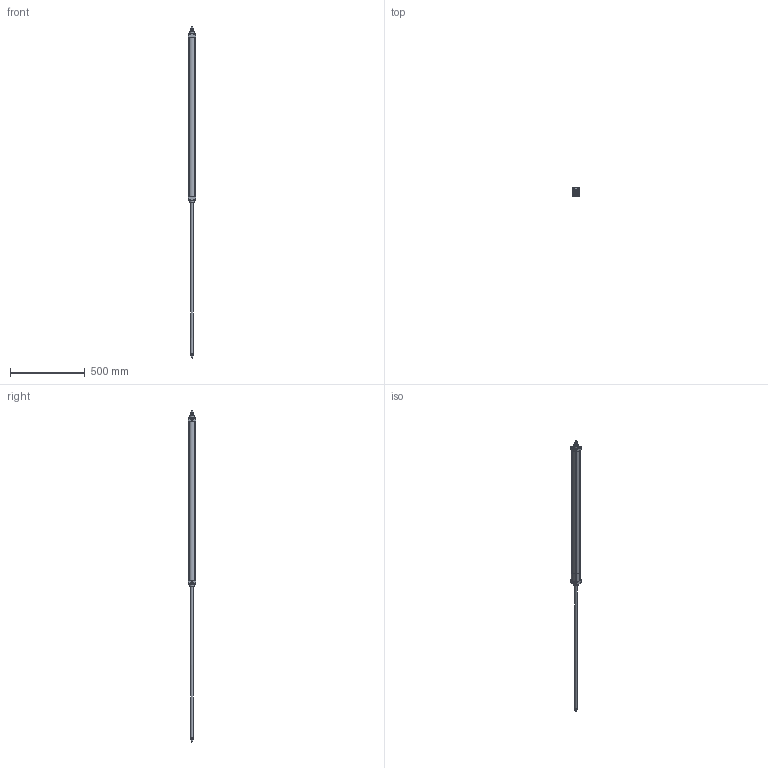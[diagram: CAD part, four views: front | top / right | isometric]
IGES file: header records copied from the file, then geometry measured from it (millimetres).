
Global section: file name: 130#_040_1000_02A; native system: Autodesk Inventor 2014; preprocessor: unknown; author: A. Manieri; date: 20161123.143644; units: millimetre
Bounding box: 52 x 52 x 2214 mm (x, y, z)
Volume: 1213977.7 mm3; surface area: 531089.4 mm2
Topology: 10 solids, 10 shells, 187 faces, 467 edges, 314 vertices
Faces by surface type: bspline 187
